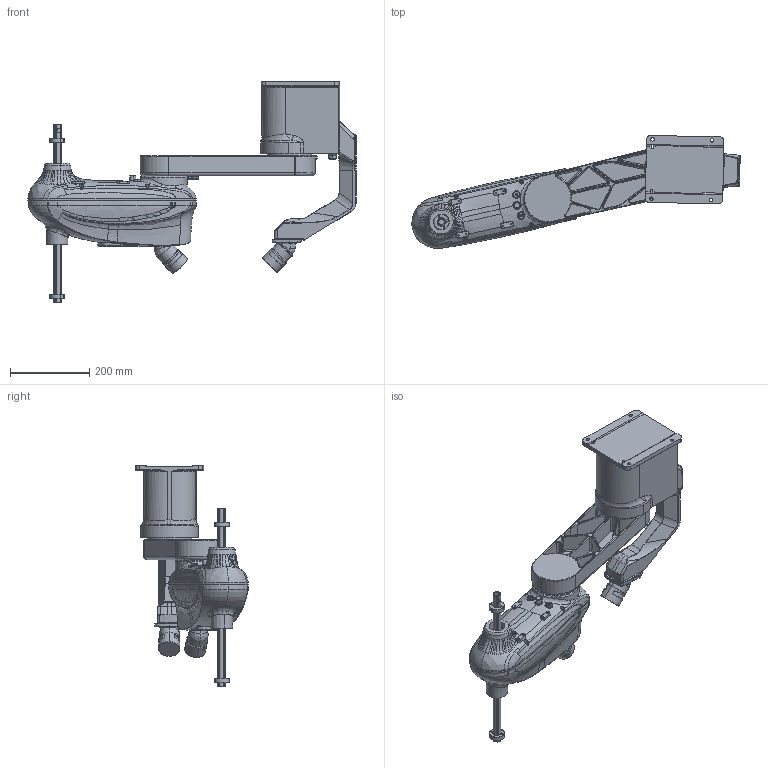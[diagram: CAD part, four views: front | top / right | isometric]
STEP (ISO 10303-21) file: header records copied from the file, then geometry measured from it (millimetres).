
FILE_DESCRIPTION (( 'STEP AP203' ), '1' );
FILE_NAME ('MR06SC-600.STEP', '2023-08-03T00:38:46', ( '' ), ( '' ), 'SwSTEP 2.0', 'SolidWorks 2018', '' );
FILE_SCHEMA (( 'CONFIG_CONTROL_DESIGN' ));
Length unit declared in the file: millimetre
Products named in the file (8): MR06SC-600.sldasm-Part-5; MR06SC-600.sldasm-Part-3; MR06SC-600.sldasm-Part-4; MR06SC-600; MR06SC-600.sldasm-Part-2; MR06SC-600.sldasm-Part-6; MR06SC-600.sldasm-Part-7; MR06SC-600.sldasm-Part-1
Assembly tree (7 placements, depth 2):
  MR06SC-600
    MR06SC-600.sldasm-Part-1
    MR06SC-600.sldasm-Part-2
    MR06SC-600.sldasm-Part-3
    MR06SC-600.sldasm-Part-4
    MR06SC-600.sldasm-Part-5
    MR06SC-600.sldasm-Part-6
    MR06SC-600.sldasm-Part-7
Bounding box: 828.27 x 284.53 x 558.15 mm (x, y, z)
Volume: 14741242.3 mm3; surface area: 839568.8 mm2
Topology: 7 solids, 7 shells, 1353 faces, 3999 edges, 2675 vertices
Faces by surface type: bspline 531, cylinder 348, plane 243, torus 138, cone 85, sphere 8
Entity records: 169446 total; most frequent: CARTESIAN_POINT 137498, ORIENTED_EDGE 7934, DIRECTION 4618, EDGE_CURVE 3967, VERTEX_POINT 2672, B_SPLINE_CURVE_WITH_KNOTS 1902, AXIS2_PLACEMENT_3D 1849, EDGE_LOOP 1427
